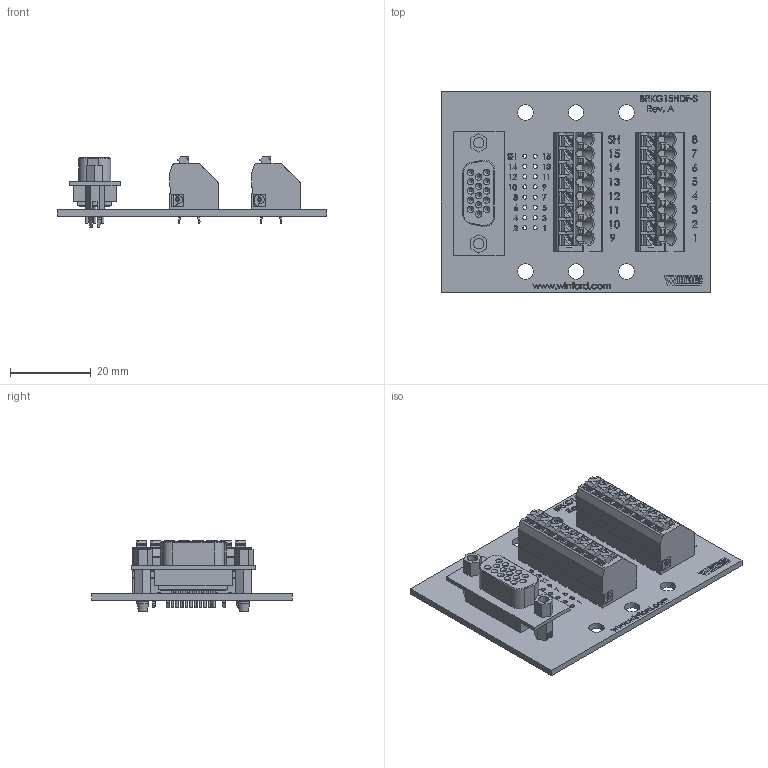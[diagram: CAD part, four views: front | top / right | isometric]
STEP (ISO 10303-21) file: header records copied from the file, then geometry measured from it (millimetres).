
FILE_DESCRIPTION (( 'STEP AP214' ), '1' );
FILE_NAME ('brkg15hdf-s-n_rev_a.STEP', '2017-12-05T04:43:49', ( '' ), ( '' ), 'SwSTEP 2.0', 'SolidWorks 2017', '' );
FILE_SCHEMA (( 'AUTOMOTIVE_DESIGN' ));
Length unit declared in the file: inch
Products named in the file (4): Spring Terminal 8 Position; Female Straight 15 HD; brkg15hdf-s-n_rev_a; BRKG15HDF Board
Assembly tree (4 placements, depth 2):
  brkg15hdf-s-n_rev_a
    BRKG15HDF Board
    Spring Terminal 8 Position  x2
    Female Straight 15 HD
Bounding box: 66.67 x 49.53 x 17.4 mm (x, y, z)
Volume: 14025.7 mm3; surface area: 13991.2 mm2
Topology: 4 solids, 4 shells, 2619 faces, 7037 edges, 4642 vertices
Faces by surface type: plane 1731, cylinder 412, bspline 375, cone 101
Full cylindrical faces by diameter (mm): 0.457 x2, 0.6 x30, 0.94 x15, 1 x16, 1.016 x16, 1.04 x8, 1.041 x16, 1.14 x8, 1.38 x2, 1.47 x2, 2.54 x2, 3 x18, 3.05 x2, 3.302 x2, 3.81 x6
Entity records: 103373 total; most frequent: CARTESIAN_POINT 33854, ORIENTED_EDGE 10182, DIRECTION 7870, EDGE_CURVE 5091, VECTOR 3636, LINE 3636, VERTEX_POINT 3451, EDGE_LOOP 2416
